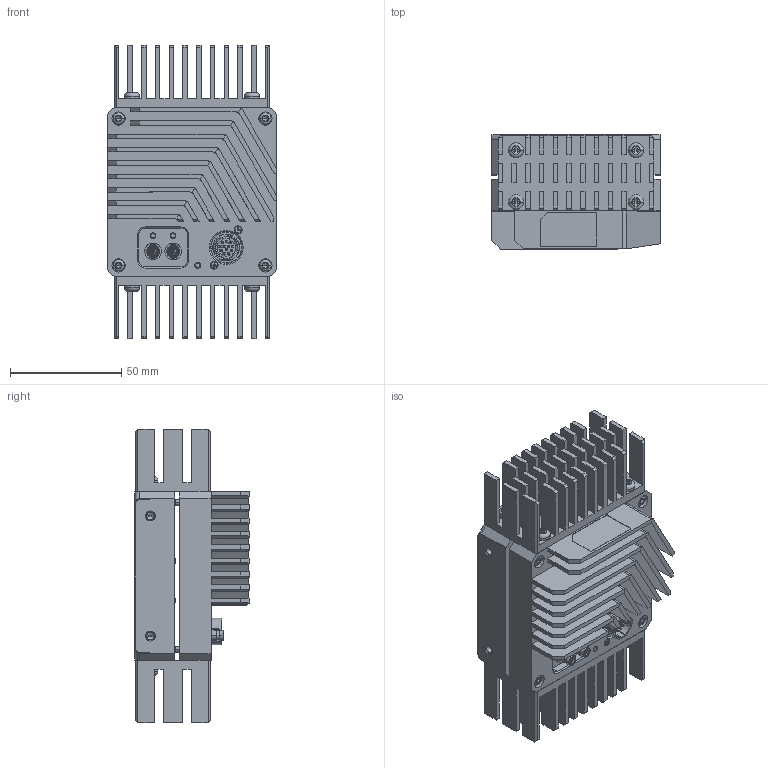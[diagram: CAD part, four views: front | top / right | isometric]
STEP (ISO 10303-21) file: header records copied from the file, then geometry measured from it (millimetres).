
FILE_DESCRIPTION((''),'2;1');
FILE_NAME('MV-CL084-91Y2M','2024-09-13T20:16:43',('sunli10'),(''),'CREO PARAMETRIC BY PTC INC, 2020044','CREO PARAMETRIC BY PTC INC, 2020044','');
FILE_SCHEMA(('CONFIG_CONTROL_DESIGN'));
Products named in the file (1): MV-CL084-91Y2M
Bounding box: 76 x 51.35 x 132 mm (x, y, z)
Volume: 224499.9 mm3; surface area: 99396.1 mm2
Topology: 5 solids, 39 shells, 3580 faces, 9883 edges, 6431 vertices
Faces by surface type: plane 2039, cylinder 902, cone 256, bspline 227, torus 132, extrusion 24
Entity records: 160127 total; most frequent: CARTESIAN_POINT 71908, ORIENTED_EDGE 19638, DIRECTION 16512, EDGE_CURVE 9819, VERTEX_POINT 6431, VECTOR 5772, LINE 5748, AXIS2_PLACEMENT_3D 5370
